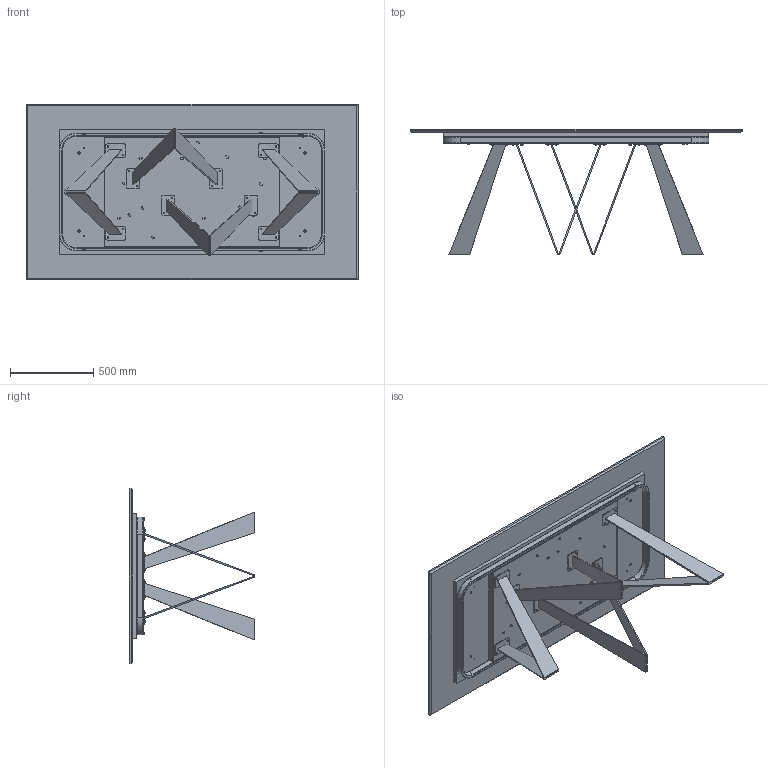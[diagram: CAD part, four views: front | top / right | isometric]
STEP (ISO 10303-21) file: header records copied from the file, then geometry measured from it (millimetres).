
FILE_DESCRIPTION (( 'STEP AP203' ), '1' );
FILE_NAME ('NO21M_Noa_200x106x75h_Marble Rectangular.STEP', '2024-08-07T14:24:40', ( '' ), ( '' ), 'SwSTEP 2.0', 'SolidWorks 2022', '' );
FILE_SCHEMA (( 'CONFIG_CONTROL_DESIGN' ));
Length unit declared in the file: millimetre
Products named in the file (17): rondella M8_8X16; NOA000001GMB-00-Piastra Principale gamba NOA_Piatto DX; TTAV06_01-01-STRUTTURA X TAVOLI PLAI ONDA NOA 240_Default<A macchina>; TRUXXXXXX-00-NOBILITATO GR CON SUPP TRUCIOLARE SP. 25_TRU00004_1600x720; TTAV06-01-TELAIO X TAVOLI PLAI ONDA NOA 240cm_TTAV06; M2X-00-Piani rettangolari marmo_2000*1060; NOA000001GMB-00-Piastra Principale gamba NOA_Piatto SX; M8xXXmm_M8x55mm; MAPPA; M2XMXX-00-Piani rettangolari in marmo_2000x1060; TTAV06_02-01-VASSOIO TAVOLI PLAI ONDA NOA 240; NOA000000-00-NOA BASE GREZZA; Assieme NOA var 3_noa 200-240; 434070-00-PIEDINO TPV GOMMA NERO D. 30x8max18; NO21M_Noa_200x106x75h_Marble Rectangular; NOA000001PTRS-00-Piastra rettangoalre con fori; M8xXXmm_M8x16mm
Assembly tree (57 placements, depth 4):
  MAPPA
  NO21M_Noa_200x106x75h_Marble Rectangular
    M2XMXX-00-Piani rettangolari in marmo_2000x1060
      M2X-00-Piani rettangolari marmo_2000*1060
      TRUXXXXXX-00-NOBILITATO GR CON SUPP TRUCIOLARE SP. 25_TRU00004_1600x720
    Assieme NOA var 3_noa 200-240
      NOA000000-00-NOA BASE GREZZA  x4
        NOA000001GMB-00-Piastra Principale gamba NOA_Piatto SX
        NOA000001GMB-00-Piastra Principale gamba NOA_Piatto DX
        NOA000001PTRS-00-Piastra rettangoalre con fori
      TTAV06-01-TELAIO X TAVOLI PLAI ONDA NOA 240cm_TTAV06
        TTAV06_02-01-VASSOIO TAVOLI PLAI ONDA NOA 240
        TTAV06_01-01-STRUTTURA X TAVOLI PLAI ONDA NOA 240_Default<A macchina>
    M8xXXmm_M8x55mm  x4
    rondella M8_8X16  x20
    M8xXXmm_M8x16mm  x16
    434070-00-PIEDINO TPV GOMMA NERO D. 30x8max18  x2
Bounding box: 2000 x 754.8 x 1060 mm (x, y, z)
Volume: 81231034.3 mm3; surface area: 10891419 mm2
Topology: 71 solids, 71 shells, 1718 faces, 3946 edges, 2331 vertices
Faces by surface type: plane 646, cylinder 446, cone 346, torus 280
Entity records: 24274 total; most frequent: DIRECTION 3962, CARTESIAN_POINT 3745, ORIENTED_EDGE 3464, EDGE_CURVE 1732, AXIS2_PLACEMENT_3D 1500, VERTEX_POINT 1079, VECTOR 962, LINE 962
